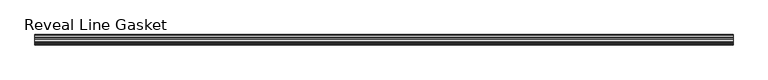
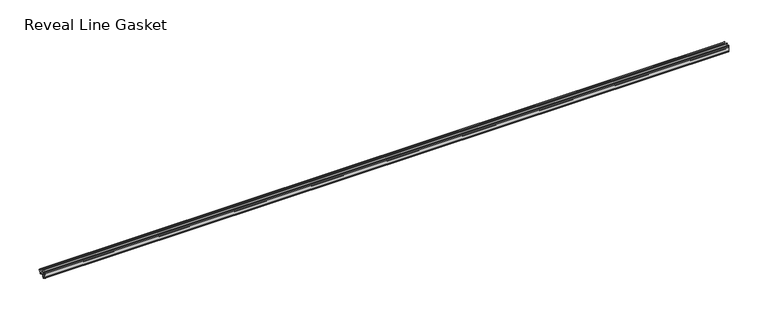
"""IFC4 building model written with IfcOpenShell, lengths in millimetres: proxy geometry, Accessories-Teknion-FHGR-AI_Healthcare-Reveal_Line_Gasket(Horizontal)-R2022 : Reveal Line Gasket."""

import ifcopenshell
import ifcopenshell.guid

model = None  # the IFC model being written
_history = None  # IfcOwnerHistory: only IFC2X3 demands one
_inside = {}  # id of a spatial element -> (the spatial element, [elements in it])
_under = {}  # id of a project, library or spatial element -> (it, [spatial elements below it])
_declared = {}  # id of a project -> (the project, [libraries it declares])
_typed = {}  # id of a type object -> (the type object, [elements of that type])
_made_of = {}  # id of a material, layer set ... -> (it, [elements and type objects made of it])


def new_model(schema):
    """Start an empty IFC model of exactly this schema.

    Asked for "IFC4X3", IfcOpenShell would pick the latest addendum, in which some entities
    have other attributes; the version numbers below select the first issue.
    IFC2X3 requires an IfcOwnerHistory on every rooted entity: one is made here for all.
    """
    global model, _history
    if schema == "IFC4X3":
        model = ifcopenshell.file(schema_version=(4, 3, 0, 0))
    else:
        model = ifcopenshell.file(schema=schema)
    _inside.clear()
    _under.clear()
    _declared.clear()
    _typed.clear()
    _made_of.clear()
    _history = None
    if model.schema == "IFC2X3":
        org = make("IfcOrganization", Name="unknown")
        user = make(
            "IfcPersonAndOrganization",
            ThePerson=make("IfcPerson", FamilyName="unknown"),
            TheOrganization=org,
        )
        app = make(
            "IfcApplication",
            ApplicationDeveloper=org,
            Version="unknown",
            ApplicationFullName="unknown",
            ApplicationIdentifier="unknown",
        )
        _history = make(
            "IfcOwnerHistory",
            OwningUser=user,
            OwningApplication=app,
            ChangeAction="ADDED",
            CreationDate=0,
        )
    return model


def make(cls, **values):
    """One entity of the class cls with the attributes given. An attribute that is None is left unset."""
    return model.create_entity(
        cls, **{name: value for name, value in values.items() if value is not None}
    )


def rooted(cls, **values):
    """An entity with a GlobalId (a new one), such as an element, a storey or a relation."""
    return make(cls, GlobalId=ifcopenshell.guid.new(), OwnerHistory=_history, **values)


def si_unit(unit_type, name, prefix=None):
    """IfcSIUnit, for example si_unit("LENGTHUNIT", "METRE", prefix="MILLI")."""
    return make("IfcSIUnit", UnitType=unit_type, Prefix=prefix, Name=name)


def assignment(units):
    """IfcUnitAssignment: the units of a project."""
    return None if units is None else make("IfcUnitAssignment", Units=units)


def point(xyz):
    """IfcCartesianPoint."""
    return None if xyz is None else make("IfcCartesianPoint", Coordinates=xyz)


def direction(xyz):
    """IfcDirection."""
    return None if xyz is None else make("IfcDirection", DirectionRatios=xyz)


def frame(location, z_axis=None, x_axis=None):
    """IfcAxis2Placement3D, a coordinate frame: its origin and axes. An axis left out is left unset."""
    return make(
        "IfcAxis2Placement3D",
        Location=point(location),
        Axis=direction(z_axis),
        RefDirection=direction(x_axis),
    )


def frame_2d(location, x_axis=None):
    """IfcAxis2Placement2D, a coordinate frame in the plane: its origin and x axis."""
    return make(
        "IfcAxis2Placement2D", Location=point(location), RefDirection=direction(x_axis)
    )


def origin():
    """The frame at (0, 0, 0) with its axes left unset."""
    return frame((0.0, 0.0, 0.0))


def place(relative_to, where):
    """IfcLocalPlacement: puts the frame where relative to a parent placement (None: the world)."""
    return make(
        "IfcLocalPlacement", PlacementRelTo=relative_to, RelativePlacement=where
    )


def context(
    kind, dimensions, precision=None, world=None, true_north=None, identifier=None
):
    """IfcGeometricRepresentationContext, for example the 3D "Model" context."""
    return make(
        "IfcGeometricRepresentationContext",
        ContextIdentifier=identifier,
        ContextType=kind,
        CoordinateSpaceDimension=dimensions,
        Precision=precision,
        WorldCoordinateSystem=world,
        TrueNorth=true_north,
    )


def project(units=None, contexts=None):
    """IfcProject with its units and contexts."""
    return rooted(
        "IfcProject",
        Name="project",
        RepresentationContexts=contexts,
        UnitsInContext=assignment(units),
    )


def spatial(cls, under=None, at=None, **own):
    """A site, building, storey or space (cls), placed at a placement, below another one or the project."""
    s = rooted(cls, ObjectPlacement=at, **own)
    if under is not None:
        _under.setdefault(under.id(), (under, []))[1].append(s)
    return s


def polyline(points):
    """IfcPolyline through the points."""
    return make("IfcPolyline", Points=[point(p) for p in points])


def circle_curve(where, radius):
    """IfcCircle in the frame where."""
    return make("IfcCircle", Position=where, Radius=radius)


def trimmed(basis, trim1, trim2, sense, master):
    """IfcTrimmedCurve: the piece of a basis curve between two trims."""
    return make(
        "IfcTrimmedCurve",
        BasisCurve=basis,
        Trim1=trim1,
        Trim2=trim2,
        SenseAgreement=sense,
        MasterRepresentation=master,
    )


def segment(curve, same_sense, transition):
    """IfcCompositeCurveSegment."""
    return make(
        "IfcCompositeCurveSegment",
        Transition=transition,
        SameSense=same_sense,
        ParentCurve=curve,
    )


def composite_curve(segments, self_intersect=None):
    """IfcCompositeCurve: segments joined end to end."""
    return make("IfcCompositeCurve", Segments=segments, SelfIntersect=self_intersect)


def outline(outer, holes=None, kind="AREA"):
    """IfcArbitraryClosedProfileDef: a profile drawn as a closed curve; with holes, ...WithVoids."""
    if holes is None:
        return make("IfcArbitraryClosedProfileDef", ProfileType=kind, OuterCurve=outer)
    return make(
        "IfcArbitraryProfileDefWithVoids",
        ProfileType=kind,
        OuterCurve=outer,
        InnerCurves=holes,
    )


def extrude(swept, where, along, depth):
    """IfcExtrudedAreaSolid: the profile swept, set in the frame where, extruded along a direction by depth."""
    return make(
        "IfcExtrudedAreaSolid",
        SweptArea=swept,
        Position=where,
        ExtrudedDirection=direction(along),
        Depth=depth,
    )


def shape(context_of_items, identifier, shape_type, items):
    """IfcShapeRepresentation: the items that make up one representation, for example the "Body"."""
    return make(
        "IfcShapeRepresentation",
        ContextOfItems=context_of_items,
        RepresentationIdentifier=identifier,
        RepresentationType=shape_type,
        Items=items,
    )


def source(mapping_origin, context_of_items, identifier, shape_type, items):
    """IfcRepresentationMap: a shape defined once, which mapped items show again and again."""
    return make(
        "IfcRepresentationMap",
        MappingOrigin=mapping_origin,
        MappedRepresentation=shape(context_of_items, identifier, shape_type, items),
    )


def transform(
    local_origin,
    x_axis=None,
    y_axis=None,
    z_axis=None,
    scale=None,
    scale2=None,
    scale3=None,
    uniform=True,
):
    """IfcCartesianTransformationOperator3D, or its non-uniform kind. x_axis, y_axis, z_axis: its Axis1, 2, 3."""
    if uniform:
        return make(
            "IfcCartesianTransformationOperator3D",
            Axis1=direction(x_axis),
            Axis2=direction(y_axis),
            LocalOrigin=point(local_origin),
            Scale=scale,
            Axis3=direction(z_axis),
        )
    return make(
        "IfcCartesianTransformationOperator3DnonUniform",
        Axis1=direction(x_axis),
        Axis2=direction(y_axis),
        LocalOrigin=point(local_origin),
        Scale=scale,
        Axis3=direction(z_axis),
        Scale2=scale2,
        Scale3=scale3,
    )


def mapped(mapping_source, mapping_target):
    """IfcMappedItem: shows the shape of a source again, moved by a transform."""
    return make(
        "IfcMappedItem", MappingSource=mapping_source, MappingTarget=mapping_target
    )


def made_of(thing, what):
    """Note that an element or type object is made of a material, layer set ...; save() writes the relation."""
    if what is not None:
        _made_of.setdefault(what.id(), (what, []))[1].append(thing)
    return thing


def element(
    cls,
    number,
    at=None,
    inside=None,
    cuts=None,
    type_object=None,
    material=None,
    context=None,
    identifier="Body",
    shape_type=None,
    held_by="IfcProductDefinitionShape",
    body=None,
    shapes=None,
    **own,
):
    """One element of the class cls, such as IfcWall. Its Tag is "e" and its number.

    at: its placement. inside: the storey or other place that contains it. cuts: it is an
    opening in that element (IfcRelVoidsElement). A single representation is given by context,
    identifier, shape_type and body (its items); several are given by shapes. held_by: the class
    of the entity that holds the representations. save() writes the other relations.
    """
    e = rooted(cls, Tag="e%d" % number, ObjectPlacement=at, **own)
    if body is not None:
        shapes = [shape(context, identifier, shape_type, body)]
    if shapes is not None:
        e.Representation = make(held_by, Representations=shapes)
    if inside is not None:
        _inside.setdefault(inside.id(), (inside, []))[1].append(e)
    if cuts is not None:
        rooted(
            "IfcRelVoidsElement", RelatingBuildingElement=cuts, RelatedOpeningElement=e
        )
    if type_object is not None:
        _typed.setdefault(type_object.id(), (type_object, []))[1].append(e)
    return made_of(e, material)


def aggregate(whole, parts):
    """IfcRelAggregates: a whole, such as a stair, and the parts it consists of."""
    return rooted("IfcRelAggregates", RelatingObject=whole, RelatedObjects=parts)


def save(model, path):
    """Write the relations noted so far, then the file.

    IfcRelAggregates (storeys below a building ...), IfcRelContainedInSpatialStructure (elements
    in a storey), IfcRelDefinesByType, IfcRelAssociatesMaterial and IfcRelDeclares: one each for
    every whole, place, type object, material and project.
    """
    for whole, parts in _under.values():
        aggregate(whole, parts)
    for where, things in _inside.values():
        rooted(
            "IfcRelContainedInSpatialStructure",
            RelatedElements=things,
            RelatingStructure=where,
        )
    for kind, things in _typed.values():
        rooted("IfcRelDefinesByType", RelatedObjects=things, RelatingType=kind)
    for what, things in _made_of.values():
        rooted("IfcRelAssociatesMaterial", RelatedObjects=things, RelatingMaterial=what)
    for by, libraries in _declared.values():
        rooted("IfcRelDeclares", RelatingContext=by, RelatedDefinitions=libraries)
    model.write(path)


def reveal_line_gasket_9d2f0afe(model_context):
    return source(origin(), model_context, "Body", "SweptSolid", [
        extrude(outline(composite_curve([segment(polyline([(-7.6326998, 1603.2), (-7.4091917, 1604.1554927), (-6.8813059, 1605.0884684)]), True, "CONTINUOUS"), segment(trimmed(circle_curve(frame_2d((-6.5243141, 1604.8864793)), 0.4101739), [point((-6.8813059, 1605.0884684))], [point((-6.1246704, 1604.7941347))], False, "CARTESIAN"), True, "CONTINUOUS"), segment(polyline([(-6.1246704, 1604.7941347), (-6.3626997, 1603.0979086), (-6.3626997, 1601.0654527)]), True, "CONTINUOUS"), segment(trimmed(circle_curve(frame_2d((-5.6959605, 1601.4819258)), 0.786124), [point((-6.3626997, 1601.0654527))], [point((-5.0926996, 1600.977875))], True, "CARTESIAN"), True, "CONTINUOUS"), segment(polyline([(-5.0926996, 1600.977875), (-0.7492996, 1600.977875), (-3.7293824, 1606.1395295)]), True, "CONTINUOUS"), segment(trimmed(circle_curve(frame_2d((-3.3132479, 1606.2049761)), 0.4212495), [point((-3.7293824, 1606.1395295))], [point((-3.0485022, 1606.5326358))], False, "CARTESIAN"), True, "CONTINUOUS"), segment(polyline([(-3.0485022, 1606.5326358), (0.5742594, 1600.977875), (4.8262978, 1600.977875), (3.1660374, 1603.8535297)]), True, "CONTINUOUS"), segment(trimmed(circle_curve(frame_2d((3.5978728, 1603.9118855)), 0.4357605), [point((3.1660374, 1603.8535297))], [point((3.864328, 1604.2566881))], False, "CARTESIAN"), True, "CONTINUOUS"), segment(polyline([(3.864328, 1604.2566881), (6.1944059, 1600.977875), (7.6326998, 1600.977875), (7.6326998, 1599.422125), (6.1944059, 1599.422125), (3.864328, 1596.1433119)]), True, "CONTINUOUS"), segment(trimmed(circle_curve(frame_2d((3.5978728, 1596.4881145)), 0.4357605), [point((3.864328, 1596.1433119))], [point((3.1660374, 1596.5464703))], False, "CARTESIAN"), True, "CONTINUOUS"), segment(polyline([(3.1660374, 1596.5464703), (4.8262978, 1599.422125), (0.5742594, 1599.422125), (-3.0485022, 1593.8673642)]), True, "CONTINUOUS"), segment(trimmed(circle_curve(frame_2d((-3.3132479, 1594.1950239)), 0.4212495), [point((-3.0485022, 1593.8673642))], [point((-3.7293824, 1594.2604705))], False, "CARTESIAN"), True, "CONTINUOUS"), segment(polyline([(-3.7293824, 1594.2604705), (-0.7492996, 1599.422125), (-5.0926996, 1599.422125)]), True, "CONTINUOUS"), segment(trimmed(circle_curve(frame_2d((-5.6959605, 1598.9180742)), 0.786124), [point((-5.0926996, 1599.422125))], [point((-6.3626997, 1599.3345473))], True, "CARTESIAN"), True, "CONTINUOUS"), segment(polyline([(-6.3626997, 1599.3345473), (-6.3626997, 1597.3020914), (-6.1246704, 1595.6058653)]), True, "CONTINUOUS"), segment(trimmed(circle_curve(frame_2d((-6.5243141, 1595.5135207)), 0.4101739), [point((-6.1246704, 1595.6058653))], [point((-6.8813059, 1595.3115316))], False, "CARTESIAN"), True, "CONTINUOUS"), segment(polyline([(-6.8813059, 1595.3115316), (-7.4091917, 1596.2445073), (-7.6326998, 1597.2), (-7.6326998, 1603.2)]), True, "CONTINUOUS")], self_intersect=False)), frame((-506.1204, 0.0, 0.0), z_axis=(1.0, 0.0, 0.0), x_axis=(0.0, 1.0, 0.0)), (0.0, 0.0, 1.0), 1012.2408),
    ])


if __name__ == "__main__":
    model = new_model("IFC4")
    model_context = context("Model", 3, world=origin())
    ifc_project = project(units=[si_unit("LENGTHUNIT", "METRE", prefix="MILLI")], contexts=[model_context])
    site = spatial("IfcSite", under=ifc_project)
    building = spatial("IfcBuilding", under=site)
    placement = place(None, origin())
    reveal_line_gasket_shape = reveal_line_gasket_9d2f0afe(model_context)
    element("IfcBuildingElementProxy", 1, Name="Accessories-Teknion-FHGR-AI_Healthcare-Reveal_Line_Gasket(Horizontal)-R2022 : Reveal Line Gasket", ObjectType="Accessories-Teknion-FHGR-AI_Healthcare-Reveal_Line_Gasket(Horizontal)-R2022 : Reveal Line Gasket", at=placement, inside=building, context=model_context, shape_type="MappedRepresentation", body=[
        mapped(reveal_line_gasket_shape, transform((0.0, 0.0, 0.0), x_axis=(1.0, 0.0, 0.0), y_axis=(0.0, 1.0, 0.0), z_axis=(0.0, 0.0, 1.0))),
    ])
    save(model, "model.ifc")
